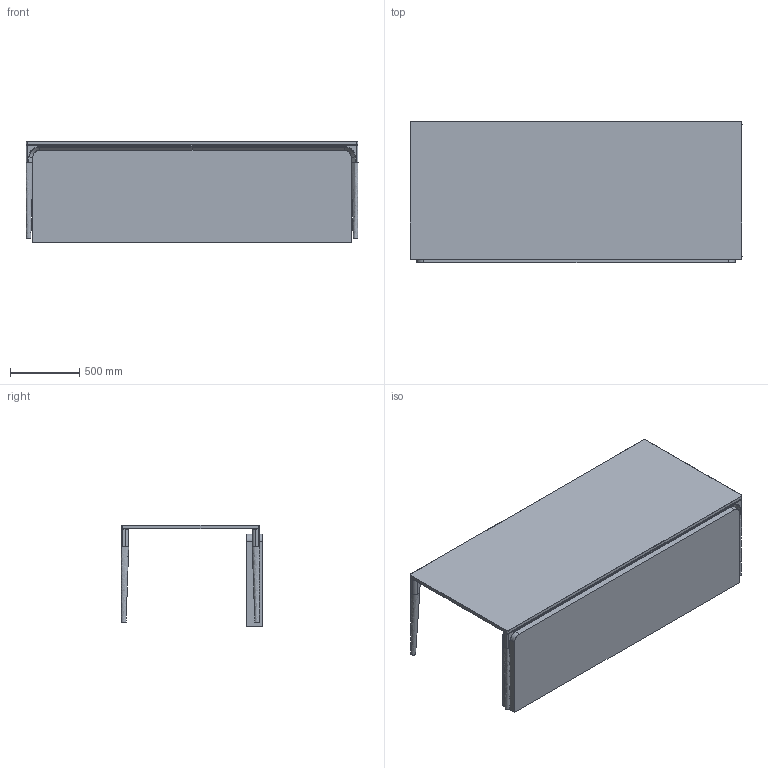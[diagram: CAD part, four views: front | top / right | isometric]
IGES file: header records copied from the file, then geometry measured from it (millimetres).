
Global section: file name: 16HC:\Users\Monika; native system: Rhinoceros ( Feb  8 2022 ); preprocessor: Trout Lake IGES 012 Feb  8 2022; date: 231017.202450; units: millimetre
Bounding box: 2400 x 1022.32 x 734.18 mm (x, y, z)
Surface area: 9990473.3 mm2 (no closed solid volume)
Topology: 0 solids, 0 shells, 153 faces, 1100 edges, 1101 vertices
Faces by surface type: bspline 153
